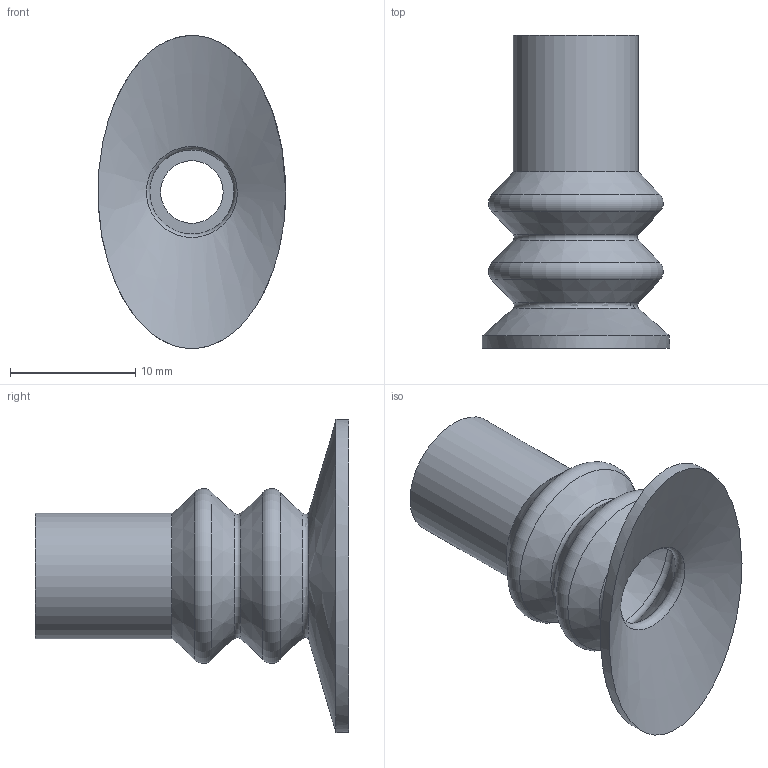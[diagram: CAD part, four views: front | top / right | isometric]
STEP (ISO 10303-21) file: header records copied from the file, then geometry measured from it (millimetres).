
FILE_DESCRIPTION (( 'STEP AP214' ), '1' );
FILE_NAME ('VOCB25X15.STEP', '2022-11-10T21:39:29', ( '' ), ( '' ), 'SwSTEP 2.0', 'SolidWorks 2018', '' );
FILE_SCHEMA (( 'AUTOMOTIVE_DESIGN' ));
Length unit declared in the file: millimetre
Products named in the file (1): VOCB25X15
Bounding box: 14.98 x 25 x 25 mm (x, y, z)
Volume: 1410 mm3; surface area: 2144.7 mm2
Topology: 1 solids, 1 shells, 23 faces, 55 edges, 34 vertices
Faces by surface type: torus 8, cone 8, bspline 3, cylinder 2, plane 2
Full cylindrical faces by diameter (mm): 5 x1, 10 x1
Entity records: 827 total; most frequent: CARTESIAN_POINT 407, DIRECTION 80, ORIENTED_EDGE 50, EDGE_LOOP 46, AXIS2_PLACEMENT_3D 40, FACE_OUTER_BOUND 36, EDGE_CURVE 25, VERTEX_POINT 25
